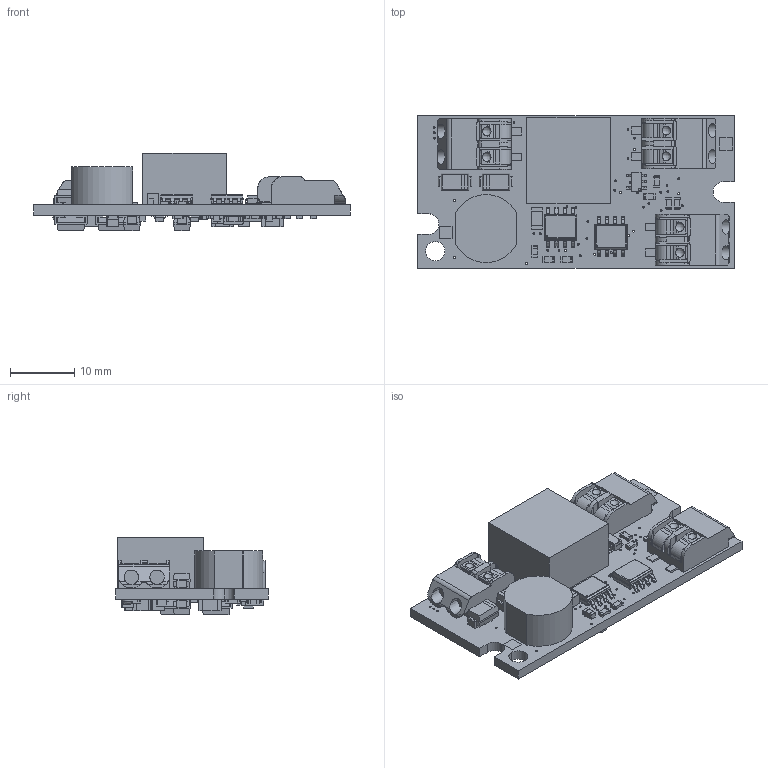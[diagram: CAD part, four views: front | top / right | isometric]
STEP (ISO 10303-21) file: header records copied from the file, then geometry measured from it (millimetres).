
FILE_DESCRIPTION((''),'2;1');
FILE_NAME('15009271Z_DATAMEC_49-3X23-8','2015-08-21T',('emanuel.wild'),(''),'PRO/ENGINEER BY PARAMETRIC TECHNOLOGY CORPORATION, 2014000','PRO/ENGINEER BY PARAMETRIC TECHNOLOGY CORPORATION, 2014000','');
FILE_SCHEMA(('AUTOMOTIVE_DESIGN { 1 0 10303 214 1 1 1 1 }'));
Products named in the file (1): 15009271Z_DATAMEC_49-3X23-8
Bounding box: 49.3 x 23.8 x 12.01 mm (x, y, z)
Volume: 4733.7 mm3; surface area: 5577.1 mm2
Topology: 33 solids, 56 shells, 4214 faces, 10363 edges, 5413 vertices
Faces by surface type: revolution 2571, bspline 1643
Entity records: 177560 total; most frequent: CARTESIAN_POINT 56136, ORIENTED_EDGE 18861, DIRECTION 14990, EDGE_CURVE 9551, PRESENTATION_STYLE_ASSIGNMENT 6398, STYLED_ITEM 6006, VECTOR 5563, LINE 5563
